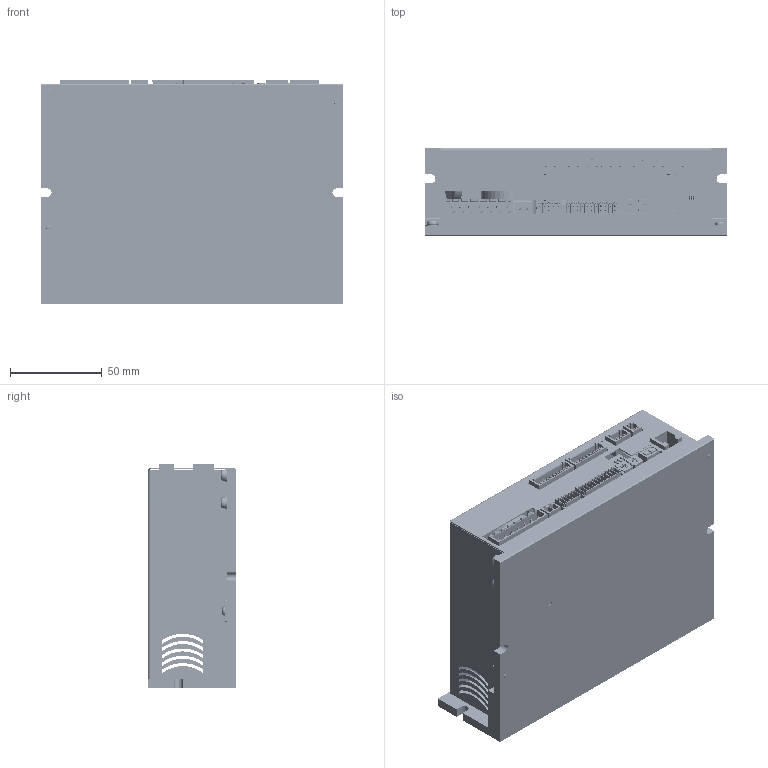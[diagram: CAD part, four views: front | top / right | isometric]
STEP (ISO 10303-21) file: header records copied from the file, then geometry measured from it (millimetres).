
FILE_DESCRIPTION((''),'2;1');
FILE_NAME('SW5A4085_ISD01_ASM','2020-07-28T10:00:55',('Matteo Maccalli'),(''),'CREO PARAMETRIC BY PTC INC, 2019344','CREO PARAMETRIC BY PTC INC, 2019344','');
FILE_SCHEMA(('AUTOMOTIVE_DESIGN { 1 0 10303 214 1 1 1 1 }'));
Products named in the file (157): ESTRUSO_SW5A4085; INSERTO_M2_5X10MM_OK; ESTRUSO_SW5A4085-INSERTI_ASM; AD_00979_SW5A4085; BOARD-2373; SOLID-38945; COMPOUND-59406; 955012641_ASM; CN6_ASM; 1758636; CN1_ASM; RTE0400V04; SW501_ASM; SW500_ASM; MC_1_5-2-G-3_81-P14-THR; PHOENIX_1782352_ASM; CN1L_ASM; BOARD-163326; A6E-4104; DIP100_ASM; IMD03DIP-00_ASM; DIP500_ASM; DMC_0_5-5-G-2_54_THR; 1844756_ASM; CN4_ASM; 877600416; JMP600_ASM; C-5555153-1-C-3D; CN5A_ASM; CN5B_ASM; MC_1_5-6-G-3_81-P14-THR; 1782394_00_ASM; CN2_ASM; BOHRLOCH_1; DMC_0_5-11-G-2_54_THR; 1844811_ASM; CN3_ASM; BOARD-421032; TDS; DISPLAY_ASM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
Assembly tree (212 placements, depth 12):
  SW5A4085_ISD01_ASM
    ESTRUSO_SW5A4085-INSERTI_ASM
      ESTRUSO_SW5A4085
      INSERTO_M2_5X10MM_OK  x3
    AD_00979_SW5A4085
    ISD01-00_FULL_ASM
      PCB_ASM
        BOARD-2373
        CN6_ASM
          955012641_ASM
            SOLID-38945
            COMPOUND-59406
        CN1_ASM
          1758636
        SW501_ASM
          RTE0400V04
        SW500_ASM
          RTE0400V04
        CN1L_ASM
          PHOENIX_1782352_ASM
            MC_1_5-2-G-3_81-P14-THR
        DIP500_ASM
          IMD03DIP-00_ASM
            BOARD-163326
            DIP100_ASM
              A6E-4104
        CN4_ASM
          1844756_ASM
            DMC_0_5-5-G-2_54_THR
        JMP600_ASM
          877600416
        CN5A_ASM
          C-5555153-1-C-3D
        CN5B_ASM
          C-5555153-1-C-3D
        CN2_ASM
          1782394_00_ASM
            MC_1_5-6-G-3_81-P14-THR
        CN3_ASM
          1844811_ASM
            BOHRLOCH_1  x23
            DMC_0_5-11-G-2_54_THR
        VIS500_ASM
          WPW05VIS-01_ASM
            BOARD-421032
            DISPLAY_ASM
              TDS
        CE200_ASM
          CE30X30P10_OK
        CE201_ASM
          CE30X30P10_OK
        IC506_ASM
          USER_LIBRARY-LQFP100
        J500_ASM
          HW-02-12-X-D-750-100  x4
        J501_ASM
          010897061_ASM
            SOLID-749998
            COMPOUND-755939
        J502_ASM
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Bounding box: 165 x 48.3 x 122.16 mm (x, y, z)
Volume: 283160.7 mm3; surface area: 226300.2 mm2
Topology: 132 solids, 148 shells, 13945 faces, 36000 edges, 22895 vertices
Faces by surface type: plane 10991, cylinder 2422, bspline 148, sphere 146, cone 126, torus 70, extrusion 42
Entity records: 459066 total; most frequent: CARTESIAN_POINT 76237, ORIENTED_EDGE 56434, DIRECTION 53962, PRESENTATION_STYLE_ASSIGNMENT 28376, EDGE_CURVE 28249, STYLED_ITEM 23176, CURVE_STYLE 22967, VECTOR 22452
